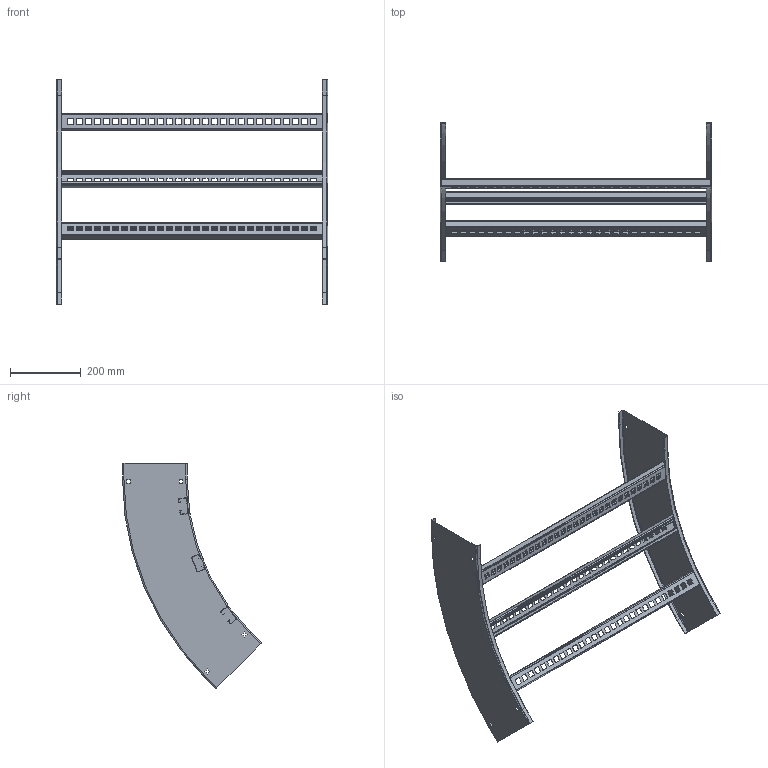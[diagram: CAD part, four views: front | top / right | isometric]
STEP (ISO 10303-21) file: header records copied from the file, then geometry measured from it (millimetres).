
FILE_DESCRIPTION((''),'2;1');
FILE_NAME('AUF730LVO4524_ASM','2010-02-01T',('erouzier'),(''),'PRO/ENGINEER BY PARAMETRIC TECHNOLOGY CORPORATION, 2008510','PRO/ENGINEER BY PARAMETRIC TECHNOLOGY CORPORATION, 2008510','');
FILE_SCHEMA(('CONFIG_CONTROL_DESIGN'));
Length unit declared in the file: inch
Products named in the file (3): CDS001419_7_45_24; CDS002159L30-P; AUF730LVO4524_ASM
Assembly tree (5 placements, depth 2):
  AUF730LVO4524_ASM
    CDS001419_7_45_24  x2
    CDS002159L30-P  x3
Bounding box: 766.11 x 392.4 x 635.93 mm (x, y, z)
Volume: 837514.1 mm3; surface area: 1040434 mm2
Topology: 5 solids, 5 shells, 878 faces, 2540 edges, 1672 vertices
Faces by surface type: plane 477, cylinder 393, torus 8
Entity records: 10440 total; most frequent: DIRECTION 1806, CARTESIAN_POINT 1796, ORIENTED_EDGE 1784, EDGE_CURVE 892, VECTOR 618, LINE 618, AXIS2_PLACEMENT_3D 594, VERTEX_POINT 584
